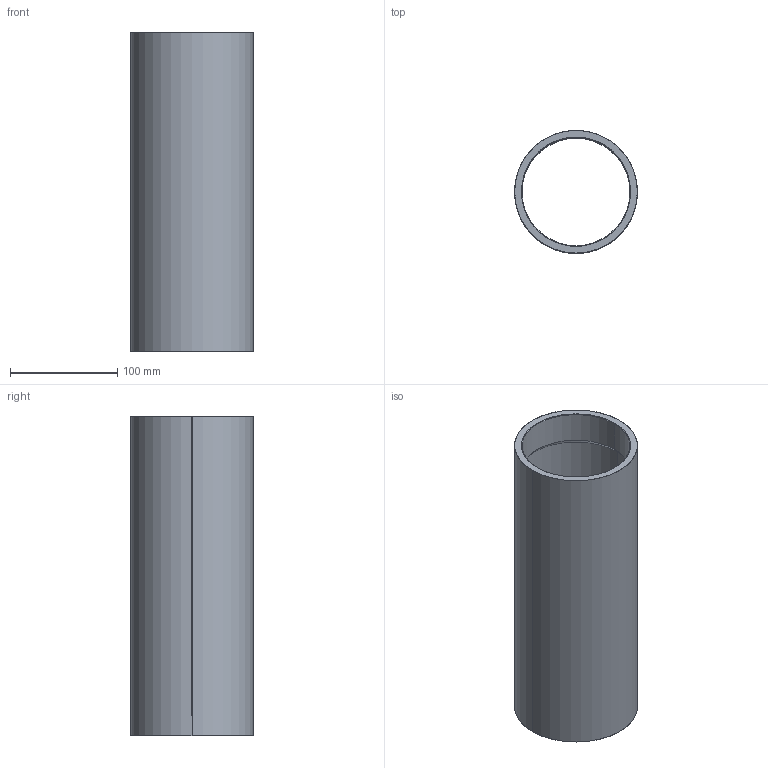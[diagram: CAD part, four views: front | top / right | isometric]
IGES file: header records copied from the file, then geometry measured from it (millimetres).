
Start section: SolidWorks IGES file using analytic representation for surfaces
Global section: file name: C:\Users\Jonathan\Dropbox\BR-Engineering\Models\WTE-4-X2A -PUBLIC\WTE4-M-TUBE-X3A.IGS; native system: SolidWorks 2014; preprocessor: SolidWorks 2014; author: Jonathan; date: 170418.083255; units: millimetre
Bounding box: 114.3 x 114.3 x 298 mm (x, y, z)
Surface area: 213220.9 mm2 (no closed solid volume)
Topology: 0 solids, 0 shells, 18 faces, 320 edges, 320 vertices
Faces by surface type: revolution 16, bspline 2
